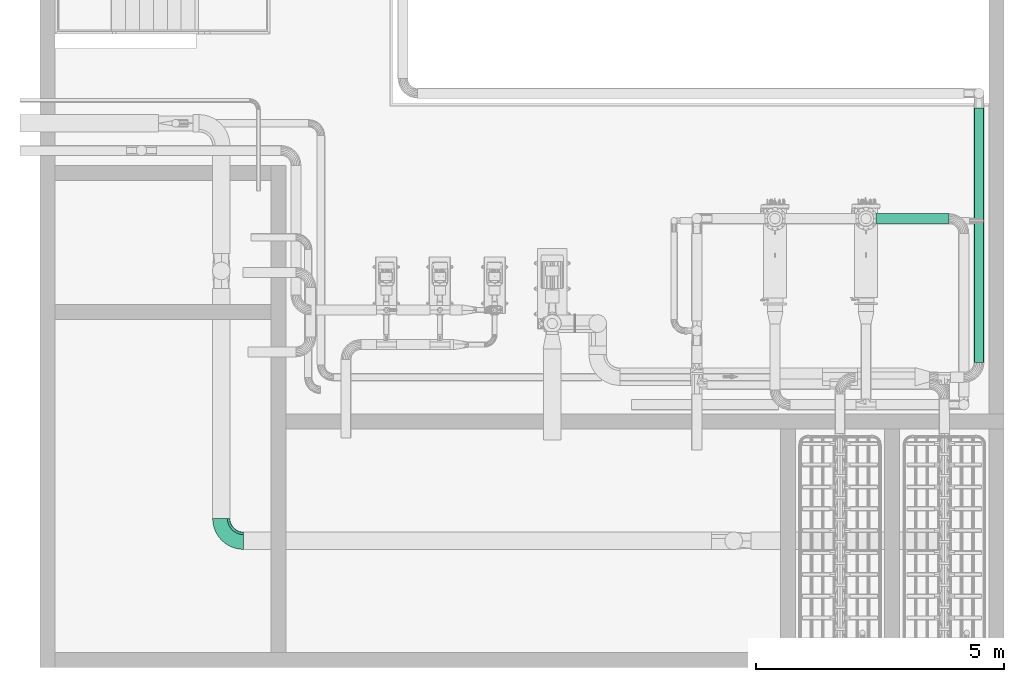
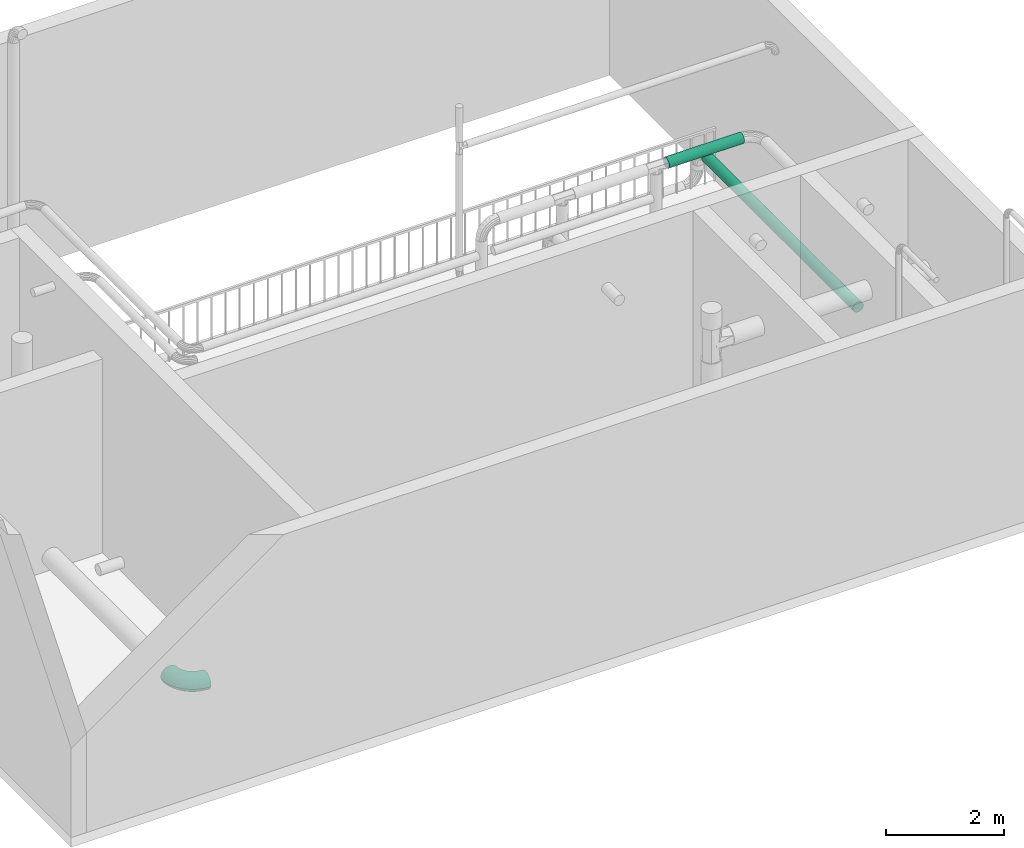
# One storey, part 8 of 28: 2 flow segments, 1 flow fitting.
"""IFC2X3 building model written with IfcOpenShell, lengths in millimetres."""

from ifc_helpers import new_model, entity, si_unit, converted_unit, direction, frame, frame_2d, origin, origin_2d_with_axis, place, context, subcontext, project, spatial, circle, extrude, faceted_brep, source, transform, mapped, material, type_object, type_shapes, element, save


model = new_model("IFC2X3")

# Units and contexts
model_context = context("Model", 3, precision=0.01, world=origin(), true_north=direction((6.123031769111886e-17, 1.0)))
body_context = subcontext(model_context, "Body", "Model", "MODEL_VIEW")
ifc_project = project(units=[si_unit("LENGTHUNIT", "METRE", prefix="MILLI"), converted_unit("PLANEANGLEUNIT", "DEGREE", entity("IfcPlaneAngleMeasure", 0.017453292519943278), si_unit("PLANEANGLEUNIT", "RADIAN"), dimensions=[0, 0, 0, 0, 0, 0, 0]), si_unit("AREAUNIT", "SQUARE_METRE")], contexts=[model_context])

# Site, building, storey
site_placement = place(None, frame((7776.576483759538, 118.3519876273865, 0.0)))
site = spatial("IfcSite", under=ifc_project, at=site_placement, Name="Default", CompositionType="ELEMENT")
building_placement = place(site_placement, origin())
building = spatial("IfcBuilding", under=site, at=building_placement, Name="Bygning (endres i Project Information)", CompositionType="ELEMENT")
storey_placement = place(building_placement, frame((0.0, 0.0, 14000.0)))
storey = spatial("IfcBuildingStorey", under=building, at=storey_placement, Name="Plan U1 - Arbeid", CompositionType="ELEMENT", Elevation=14000.000000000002)

# Flow segments
ifc_material = material(Name="SS 2343 Rustfritt stål, prosessrør, generisk")
pipe_segment_type = type_object("IfcPipeSegmentType", Name="Pipe Types:AISI 304L Rustfritt", PredefinedType="NOTDEFINED", material=ifc_material)
flow_segment_1_placement = place(storey_placement, origin())
element("IfcFlowSegment", 1, at=flow_segment_1_placement, inside=storey, type_object=pipe_segment_type, Name="Pipe Types:AISI 304L Rustfritt", ObjectType="Pipe Types:AISI 304L Rustfritt", context=body_context, shape_type="SweptSolid", body=[
    extrude(circle(Radius=103.0, at=origin_2d_with_axis()), frame((29697.263964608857, 28429.853940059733, 2552.2960799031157), z_axis=(1.0, 0.0, 0.0), x_axis=(0.0, 1.0, 0.0)), (0.0, 0.0, 1.0), 1467.737410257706),
])
flow_segment_2_placement = place(storey_placement, origin())
element("IfcFlowSegment", 2, at=flow_segment_2_placement, inside=storey, type_object=pipe_segment_type, Name="Pipe Types:AISI 304L Rustfritt", ObjectType="Pipe Types:AISI 304L Rustfritt", context=body_context, shape_type="SweptSolid", body=[
    extrude(circle(Radius=103.0, at=frame_2d((7.130779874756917e-41, 8.662937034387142e-12), x_axis=(1.0, 0.0))), frame((31771.00137486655, 25537.757305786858, 603.0), z_axis=(0.0, 1.0, 0.0), x_axis=(-1.0, 0.0, 0.0)), (0.0, 0.0, 1.0), 5112.99999999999),
])

# Flow fitting
pipe_fitting_type = type_object("IfcPipeFittingType", Name="VA_prosess_rustfritt_bend_D+100:VA_prosess_rustfritt_bend_D+100", PredefinedType="NOTDEFINED", material=ifc_material)
shared_shape = source(origin(), body_context, "Body", "Brep", [
    faceted_brep([(-352.2284593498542, -167.30521287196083, 0.0), (-353.16127499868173, -161.4156466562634, 45.29333289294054), (-450.0, -169.03701960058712, 45.29333289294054), (-450.0, -175.0, 0.0), (-355.89615210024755, -144.14831221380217, 87.4999999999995), (-450.0, -151.5544456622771, 87.4999999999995), (-360.2467132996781, -116.67994985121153, 123.74368670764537), (-450.0, -123.74368670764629, 123.74368670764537), (-365.91647504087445, -80.88248306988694, 151.5544456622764), (-450.0, -87.50000000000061, 151.5544456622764), (-372.5190524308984, -39.19545007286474, 169.03701960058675), (-450.0, -45.29333289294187, 169.03701960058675), (-379.6044907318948, 5.540246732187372, 175.0), (-450.0, 0.0, 175.0), (-386.6899290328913, 50.27594353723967, 169.03701960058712), (-450.0, 45.293332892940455, 169.03701960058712), (-393.29250642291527, 91.96297653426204, 151.55444566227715), (-450.0, 87.49999999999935, 151.55444566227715), (-398.9622681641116, 127.76044331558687, 123.7436867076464), (-450.0, 123.74368670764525, 123.7436867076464), (-406.04770646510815, 172.49614012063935, 45.29333289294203), (-450.0, 169.03701960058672, 45.29333289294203), (-406.98052211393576, 178.3857063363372, 0.0), (-450.0, 175.0, 0.0), (-406.0477064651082, 172.4961401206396, -45.29333289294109), (-450.0, 169.03701960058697, -45.29333289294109), (-403.31282936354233, 155.22880567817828, -87.49999999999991), (-450.0, 151.55444566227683, -87.49999999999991), (-398.9622681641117, 127.76044331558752, -123.74368670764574), (-450.0, 123.7436867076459, -123.74368670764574), (-393.2925064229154, 91.96297653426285, -151.5544456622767), (-450.0, 87.50000000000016, -151.5544456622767), (-386.6899290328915, 50.27594353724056, -169.0370196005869), (-450.0, 45.29333289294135, -169.0370196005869), (-379.604490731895, 5.540246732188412, -175.0), (-450.0, 0.0, -175.0), (-372.5190524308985, -39.195450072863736, -169.03701960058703), (-450.0, -45.29333289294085, -169.03701960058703), (-365.9164750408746, -80.88248306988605, -151.55444566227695), (-450.0, -87.4999999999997, -151.55444566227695), (-360.2467132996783, -116.6799498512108, -123.74368670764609), (-450.0, -123.74368670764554, -123.74368670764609), (-353.16127499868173, -161.41564665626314, -45.29333289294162), (-450.0, -169.03701960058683, -45.29333289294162), (-256.86437851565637, -144.41032268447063, 0.0), (-258.70704079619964, -138.7391913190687, 45.29333289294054), (-264.109453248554, -122.11227545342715, 87.4999999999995), (-272.7034503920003, -95.66267192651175, 123.74368670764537), (-283.9033655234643, -61.19287750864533, 151.5544456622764), (-296.9459429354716, -21.051951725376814, 169.03701960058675), (-310.94235253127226, 22.024567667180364, 175.0), (-324.93876212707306, 65.10108705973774, 169.03701960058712), (-337.9813395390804, 105.24201284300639, 151.55444566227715), (-349.18125467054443, 139.71180726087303, 123.7436867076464), (-363.1776642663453, 182.78832665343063, 45.29333289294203), (-365.0203265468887, 188.4594580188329, 0.0), (-363.17766426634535, 182.78832665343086, -45.29333289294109), (-357.77525181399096, 166.1614107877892, -87.49999999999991), (-349.18125467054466, 139.71180726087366, -123.74368670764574), (-337.9813395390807, 105.24201284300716, -151.5544456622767), (-324.93876212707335, 65.10108705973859, -169.0370196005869), (-310.9423525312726, 22.024567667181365, -175.0), (-296.94594293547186, -21.051951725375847, -169.03701960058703), (-283.9033655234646, -61.192877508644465, -151.55444566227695), (-272.70345039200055, -95.66267192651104, -123.74368670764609), (-258.70704079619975, -138.73919131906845, -45.29333289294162), (-166.25593766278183, -106.87907761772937, 0.0), (-168.9630741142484, -101.56602317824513, 45.29333289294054), (-176.8999965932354, -85.9889357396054, 87.4999999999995), (-189.52581694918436, -61.20936806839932, 123.74368670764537), (-205.9801063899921, -28.916006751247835, 151.5544456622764), (-225.14153228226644, 8.690409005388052, 169.03701960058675), (-245.7042751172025, 49.047064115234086, 175.0), (-266.2670179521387, 89.40371922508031, 169.03701960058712), (-285.4284438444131, 127.0101349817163, 151.55444566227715), (-301.88273328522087, 159.30349629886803, 123.7436867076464), (-322.44547612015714, 199.6601514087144, 45.29333289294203), (-325.15261257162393, 204.973205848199, 0.0), (-322.44547612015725, 199.66015140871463, -45.29333289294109), (-314.50855364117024, 184.0830639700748, -87.49999999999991), (-301.88273328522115, 159.30349629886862, -123.74368670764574), (-285.4284438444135, 127.01013498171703, -151.5544456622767), (-266.2670179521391, 89.4037192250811, -169.0370196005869), (-245.70427511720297, 49.047064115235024, -175.0), (-225.1415322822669, 8.690409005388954, -169.03701960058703), (-205.9801063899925, -28.916006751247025, -151.55444566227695), (-189.5258169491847, -61.20936806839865, -123.74368670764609), (-168.96307411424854, -101.56602317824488, -45.29333289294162), (-82.6342173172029, -55.63562148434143, 0.0), (-86.13916925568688, -50.811469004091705, 45.29333289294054), (-96.4151683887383, -36.667769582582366, 87.4999999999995), (-112.76192235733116, -14.168392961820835, 123.74368670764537), (-134.06542689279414, 15.15336552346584, 151.5544456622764), (-158.87388336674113, 49.299276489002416, 169.03701960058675), (-185.49663646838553, 85.94235253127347, 175.0), (-212.11938957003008, 122.58542857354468, 169.03701960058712), (-236.9278460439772, 156.73133953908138, 151.55444566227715), (-258.2313505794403, 186.05309802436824, 123.7436867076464), (-284.85410368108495, 222.69617406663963, 45.29333289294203), (-288.3590556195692, 227.5203265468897, 0.0), (-284.8541036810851, 222.69617406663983, -45.29333289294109), (-274.5781045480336, 208.55247464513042, -87.49999999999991), (-258.23135057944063, 186.05309802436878, -123.74368670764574), (-236.9278460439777, 156.731339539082, -151.5544456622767), (-212.11938957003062, 122.58542857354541, -169.0370196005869), (-185.49663646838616, 85.94235253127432, -175.0), (-158.87388336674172, 49.29927648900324, -169.03701960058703), (-134.06542689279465, 15.15336552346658, -151.55444566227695), (-112.7619223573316, -14.168392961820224, -123.74368670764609), (-86.13916925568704, -50.81146900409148, -45.29333289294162), (-8.058261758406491, 8.058261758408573, 0.0), (-12.274725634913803, 12.274725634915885, 45.29333289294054), (-24.63677221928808, 24.636772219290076, 87.4999999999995), (-44.30194846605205, 44.30194846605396, 123.74368670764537), (-69.93010511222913, 69.93010511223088, 151.5544456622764), (-99.77472563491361, 99.77472563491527, 169.03701960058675), (-131.801948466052, 131.80194846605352, 175.0), (-163.82917129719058, 163.82917129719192, 169.03701960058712), (-193.6737918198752, 193.67379181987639, 151.55444566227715), (-219.3019484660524, 219.3019484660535, 123.7436867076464), (-251.3291712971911, 251.32917129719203, 45.29333289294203), (-255.54563517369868, 255.54563517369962, 0.0), (-251.32917129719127, 251.32917129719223, -45.29333289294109), (-238.9671247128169, 238.96712471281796, -87.49999999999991), (-219.30194846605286, 219.30194846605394, -123.74368670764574), (-193.67379181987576, 193.67379181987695, -151.5544456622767), (-163.8291712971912, 163.82917129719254, -169.0370196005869), (-131.80194846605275, 131.80194846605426, -175.0), (-99.77472563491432, 99.774725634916, -169.03701960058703), (-69.93010511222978, 69.93010511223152, -151.55444566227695), (-44.30194846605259, 44.3019484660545, -123.74368670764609), (-12.274725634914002, 12.274725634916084, -45.29333289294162), (55.63562148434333, 82.63421731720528, 0.0), (50.81146900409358, 86.13916925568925, 45.29333289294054), (36.667769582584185, 96.41516838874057, 87.4999999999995), (14.168392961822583, 112.76192235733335, 123.74368670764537), (-15.153365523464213, 134.06542689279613, 151.5544456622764), (-49.29927648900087, 158.873883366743, 169.03701960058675), (-85.94235253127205, 185.49663646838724, 175.0), (-122.5854285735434, 212.11938957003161, 169.03701960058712), (-156.73133953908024, 236.92784604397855, 151.55444566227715), (-186.05309802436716, 258.23135057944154, 123.7436867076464), (-222.6961740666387, 284.854103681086, 45.29333289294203), (-227.52032654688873, 288.35905561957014, 0.0), (-222.6961740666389, 284.85410368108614, -45.29333289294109), (-208.5524746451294, 274.5781045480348, -87.49999999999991), (-186.05309802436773, 258.2313505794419, -123.74368670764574), (-156.73133953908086, 236.92784604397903, -151.5544456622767), (-122.58542857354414, 212.11938957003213, -169.0370196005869), (-85.9423525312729, 185.49663646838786, -175.0), (-49.29927648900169, 158.8738833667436, -169.03701960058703), (-15.153365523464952, 134.06542689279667, -151.55444566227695), (14.168392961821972, 112.76192235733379, -123.74368670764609), (50.811469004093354, 86.13916925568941, -45.29333289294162), (106.87907761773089, 166.25593766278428, 0.0), (101.56602317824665, 168.96307411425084, 45.29333289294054), (85.98893573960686, 176.89999659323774, 87.4999999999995), (61.209368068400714, 189.5258169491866, 123.74368670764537), (28.916006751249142, 205.98010638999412, 151.5544456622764), (-8.690409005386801, 225.14153228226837, 169.03701960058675), (-49.047064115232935, 245.70427511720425, 175.0), (-89.40371922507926, 266.2670179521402, 169.03701960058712), (-127.01013498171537, 285.42844384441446, 151.55444566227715), (-159.30349629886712, 301.8827332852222, 123.7436867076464), (-199.6601514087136, 322.44547612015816, 45.29333289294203), (-204.97320584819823, 325.1526125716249, 0.0), (-199.66015140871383, 322.4454761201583, -45.29333289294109), (-184.08306397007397, 314.5085536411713, -87.49999999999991), (-159.3034962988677, 301.88273328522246, -123.74368670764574), (-127.01013498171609, 285.42844384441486, -151.5544456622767), (-89.40371922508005, 266.2670179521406, -169.0370196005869), (-49.04706411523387, 245.7042751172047, -175.0), (-8.690409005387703, 225.14153228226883, -169.03701960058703), (28.916006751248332, 205.98010638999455, -151.55444566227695), (61.209368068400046, 189.52581694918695, -123.74368670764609), (101.5660231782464, 168.96307411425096, -45.29333289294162), (144.41032268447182, 256.8643785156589, 0.0), (138.73919131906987, 258.7070407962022, 45.29333289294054), (122.11227545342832, 264.1094532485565, 87.4999999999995), (95.66267192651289, 272.7034503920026, 123.74368670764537), (61.19287750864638, 283.9033655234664, 151.5544456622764), (21.05195172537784, 296.9459429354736, 169.03701960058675), (-22.024567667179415, 310.9423525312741, 175.0), (-65.10108705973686, 324.9387621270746, 169.03701960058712), (-105.24201284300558, 337.98133953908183, 151.55444566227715), (-139.7118072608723, 349.1812546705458, 123.7436867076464), (-182.7883266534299, 363.17766426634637, 45.29333289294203), (-188.45945801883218, 365.0203265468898, 0.0), (-182.78832665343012, 363.1776642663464, -45.29333289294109), (-166.16141078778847, 357.7752518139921, -87.49999999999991), (-139.71180726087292, 349.18125467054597, -123.74368670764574), (-105.24201284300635, 337.9813395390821, -151.5544456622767), (-65.10108705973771, 324.9387621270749, -169.0370196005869), (-22.024567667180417, 310.9423525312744, -175.0), (21.051951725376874, 296.94594293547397, -169.03701960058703), (61.192877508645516, 283.9033655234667, -151.55444566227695), (95.66267192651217, 272.7034503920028, -123.74368670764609), (138.73919131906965, 258.7070407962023, -45.29333289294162), (167.30521287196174, 352.22845934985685, 0.0), (161.4156466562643, 353.16127499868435, 45.29333289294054), (144.14831221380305, 355.89615210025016, 87.4999999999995), (116.67994985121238, 360.2467132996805, 123.74368670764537), (80.88248306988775, 365.9164750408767, 151.5544456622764), (39.19545007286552, 372.5190524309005, 169.03701960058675), (-5.5402467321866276, 379.6044907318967, 175.0), (-50.27594353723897, 386.68992903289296, 169.03701960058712), (-91.96297653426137, 393.29250642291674, 151.55444566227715), (-127.76044331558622, 398.962268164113, 123.7436867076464), (-172.49614012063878, 406.0477064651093, 45.29333289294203), (-178.38570633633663, 406.98052211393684, 0.0), (-172.49614012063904, 406.0477064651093, -45.29333289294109), (-155.22880567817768, 403.3128293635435, -87.49999999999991), (-127.76044331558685, 398.9622681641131, -123.74368670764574), (-91.96297653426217, 393.29250642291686, -151.5544456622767), (-50.275943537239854, 386.6899290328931, -169.0370196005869), (-5.540246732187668, 379.6044907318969, -175.0), (39.19545007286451, 372.5190524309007, -169.03701960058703), (80.88248306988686, 365.9164750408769, -151.55444566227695), (116.67994985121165, 360.2467132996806, -123.74368670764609), (161.41564665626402, 353.1612749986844, -45.29333289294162), (175.0, 450.0, 0.0), (169.0370196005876, 450.0, 45.29333289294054), (151.55444566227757, 450.0, 87.4999999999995), (123.74368670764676, 450.0, 123.74368670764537), (87.50000000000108, 450.0, 151.5544456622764), (45.293332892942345, 450.0, 169.03701960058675), (0.0, 450.0, 175.0), (-45.29333289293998, 450.0, 169.03701960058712), (-87.49999999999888, 450.0, 151.55444566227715), (-123.74368670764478, 450.0, 123.7436867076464), (-169.03701960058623, 450.0, 45.29333289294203), (-175.0, 450.0, 0.0), (-169.0370196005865, 450.0, -45.29333289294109), (-151.55444566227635, 450.0, -87.49999999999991), (-123.74368670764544, 450.0, -123.74368670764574), (-87.49999999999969, 450.0, -151.5544456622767), (-45.293332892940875, 450.0, -169.0370196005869), (0.0, 450.0, -175.0), (45.29333289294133, 450.0, -169.03701960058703), (87.50000000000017, 450.0, -151.55444566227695), (123.743686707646, 450.0, -123.74368670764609), (169.0370196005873, 450.0, -45.29333289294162)], [[[0, 1, 2, 3]], [[1, 4, 5, 2]], [[4, 6, 7, 5]], [[6, 8, 9, 7]], [[8, 10, 11, 9]], [[10, 12, 13, 11]], [[12, 14, 15, 13]], [[14, 16, 17, 15]], [[16, 18, 19, 17]], [[18, 20, 21, 19]], [[20, 22, 23, 21]], [[22, 24, 25, 23]], [[24, 26, 27, 25]], [[26, 28, 29, 27]], [[28, 30, 31, 29]], [[30, 32, 33, 31]], [[32, 34, 35, 33]], [[34, 36, 37, 35]], [[36, 38, 39, 37]], [[38, 40, 41, 39]], [[40, 42, 43, 41]], [[42, 0, 3, 43]], [[44, 45, 1, 0]], [[45, 46, 4, 1]], [[46, 47, 6, 4]], [[47, 48, 8, 6]], [[48, 49, 10, 8]], [[49, 50, 12, 10]], [[50, 51, 14, 12]], [[51, 52, 16, 14]], [[52, 53, 18, 16]], [[53, 54, 20, 18]], [[54, 55, 22, 20]], [[55, 56, 24, 22]], [[56, 57, 26, 24]], [[57, 58, 28, 26]], [[58, 59, 30, 28]], [[59, 60, 32, 30]], [[60, 61, 34, 32]], [[61, 62, 36, 34]], [[62, 63, 38, 36]], [[63, 64, 40, 38]], [[64, 65, 42, 40]], [[65, 44, 0, 42]], [[66, 67, 45, 44]], [[67, 68, 46, 45]], [[68, 69, 47, 46]], [[69, 70, 48, 47]], [[70, 71, 49, 48]], [[71, 72, 50, 49]], [[72, 73, 51, 50]], [[73, 74, 52, 51]], [[74, 75, 53, 52]], [[75, 76, 54, 53]], [[76, 77, 55, 54]], [[77, 78, 56, 55]], [[78, 79, 57, 56]], [[79, 80, 58, 57]], [[80, 81, 59, 58]], [[81, 82, 60, 59]], [[82, 83, 61, 60]], [[83, 84, 62, 61]], [[84, 85, 63, 62]], [[85, 86, 64, 63]], [[86, 87, 65, 64]], [[87, 66, 44, 65]], [[88, 89, 67, 66]], [[89, 90, 68, 67]], [[90, 91, 69, 68]], [[91, 92, 70, 69]], [[92, 93, 71, 70]], [[93, 94, 72, 71]], [[94, 95, 73, 72]], [[95, 96, 74, 73]], [[96, 97, 75, 74]], [[97, 98, 76, 75]], [[98, 99, 77, 76]], [[99, 100, 78, 77]], [[100, 101, 79, 78]], [[101, 102, 80, 79]], [[102, 103, 81, 80]], [[103, 104, 82, 81]], [[104, 105, 83, 82]], [[105, 106, 84, 83]], [[106, 107, 85, 84]], [[107, 108, 86, 85]], [[108, 109, 87, 86]], [[109, 88, 66, 87]], [[110, 111, 89, 88]], [[111, 112, 90, 89]], [[112, 113, 91, 90]], [[113, 114, 92, 91]], [[114, 115, 93, 92]], [[115, 116, 94, 93]], [[116, 117, 95, 94]], [[117, 118, 96, 95]], [[118, 119, 97, 96]], [[119, 120, 98, 97]], [[120, 121, 99, 98]], [[121, 122, 100, 99]], [[122, 123, 101, 100]], [[123, 124, 102, 101]], [[124, 125, 103, 102]], [[125, 126, 104, 103]], [[126, 127, 105, 104]], [[127, 128, 106, 105]], [[128, 129, 107, 106]], [[129, 130, 108, 107]], [[130, 131, 109, 108]], [[131, 110, 88, 109]], [[132, 133, 111, 110]], [[133, 134, 112, 111]], [[134, 135, 113, 112]], [[135, 136, 114, 113]], [[136, 137, 115, 114]], [[137, 138, 116, 115]], [[138, 139, 117, 116]], [[139, 140, 118, 117]], [[140, 141, 119, 118]], [[141, 142, 120, 119]], [[142, 143, 121, 120]], [[143, 144, 122, 121]], [[144, 145, 123, 122]], [[145, 146, 124, 123]], [[146, 147, 125, 124]], [[147, 148, 126, 125]], [[148, 149, 127, 126]], [[149, 150, 128, 127]], [[150, 151, 129, 128]], [[151, 152, 130, 129]], [[152, 153, 131, 130]], [[153, 132, 110, 131]], [[154, 155, 133, 132]], [[155, 156, 134, 133]], [[156, 157, 135, 134]], [[157, 158, 136, 135]], [[158, 159, 137, 136]], [[159, 160, 138, 137]], [[160, 161, 139, 138]], [[161, 162, 140, 139]], [[162, 163, 141, 140]], [[163, 164, 142, 141]], [[164, 165, 143, 142]], [[165, 166, 144, 143]], [[166, 167, 145, 144]], [[167, 168, 146, 145]], [[168, 169, 147, 146]], [[169, 170, 148, 147]], [[170, 171, 149, 148]], [[171, 172, 150, 149]], [[172, 173, 151, 150]], [[173, 174, 152, 151]], [[174, 175, 153, 152]], [[175, 154, 132, 153]], [[176, 177, 155, 154]], [[177, 178, 156, 155]], [[178, 179, 157, 156]], [[179, 180, 158, 157]], [[180, 181, 159, 158]], [[181, 182, 160, 159]], [[182, 183, 161, 160]], [[183, 184, 162, 161]], [[184, 185, 163, 162]], [[185, 186, 164, 163]], [[186, 187, 165, 164]], [[187, 188, 166, 165]], [[188, 189, 167, 166]], [[189, 190, 168, 167]], [[190, 191, 169, 168]], [[191, 192, 170, 169]], [[192, 193, 171, 170]], [[193, 194, 172, 171]], [[194, 195, 173, 172]], [[195, 196, 174, 173]], [[196, 197, 175, 174]], [[197, 176, 154, 175]], [[198, 199, 177, 176]], [[199, 200, 178, 177]], [[200, 201, 179, 178]], [[201, 202, 180, 179]], [[202, 203, 181, 180]], [[203, 204, 182, 181]], [[204, 205, 183, 182]], [[205, 206, 184, 183]], [[206, 207, 185, 184]], [[207, 208, 186, 185]], [[208, 209, 187, 186]], [[209, 210, 188, 187]], [[210, 211, 189, 188]], [[211, 212, 190, 189]], [[212, 213, 191, 190]], [[213, 214, 192, 191]], [[214, 215, 193, 192]], [[215, 216, 194, 193]], [[216, 217, 195, 194]], [[217, 218, 196, 195]], [[218, 219, 197, 196]], [[219, 198, 176, 197]], [[220, 221, 199, 198]], [[221, 222, 200, 199]], [[222, 223, 201, 200]], [[223, 224, 202, 201]], [[224, 225, 203, 202]], [[225, 226, 204, 203]], [[226, 227, 205, 204]], [[227, 228, 206, 205]], [[228, 229, 207, 206]], [[229, 230, 208, 207]], [[230, 231, 209, 208]], [[231, 232, 210, 209]], [[232, 233, 211, 210]], [[233, 234, 212, 211]], [[234, 235, 213, 212]], [[235, 236, 214, 213]], [[236, 237, 215, 214]], [[237, 238, 216, 215]], [[238, 239, 217, 216]], [[239, 240, 218, 217]], [[240, 241, 219, 218]], [[241, 220, 198, 219]], [[3, 2, 5, 7, 9, 11, 13, 15, 17, 19, 21, 23, 25, 27, 29, 31, 33, 35, 37, 39, 41, 43]], [[241, 240, 239, 238, 237, 236, 235, 234, 233, 232, 231, 230, 229, 228, 227, 226, 225, 224, 223, 222, 221, 220]]]),
])
type_shapes(pipe_fitting_type, [shared_shape])
flow_fitting_placement = place(storey_placement, frame((16524.001374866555, 21947.75730578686, 278.0), z_axis=(0.0, 0.0, 1.0), x_axis=(0.0, -1.0, 0.0)))
element("IfcFlowFitting", 3, at=flow_fitting_placement, inside=storey, type_object=pipe_fitting_type, material=ifc_material, Name="VA_prosess_rustfritt_bend_D+100:VA_prosess_rustfritt_bend_D+100", ObjectType="VA_prosess_rustfritt_bend_D+100:VA_prosess_rustfritt_bend_D+100", context=body_context, shape_type="MappedRepresentation", body=[
    mapped(shared_shape, transform((0.0, 0.0, 0.0), scale=1.0)),
])

save(model, "model.ifc")
